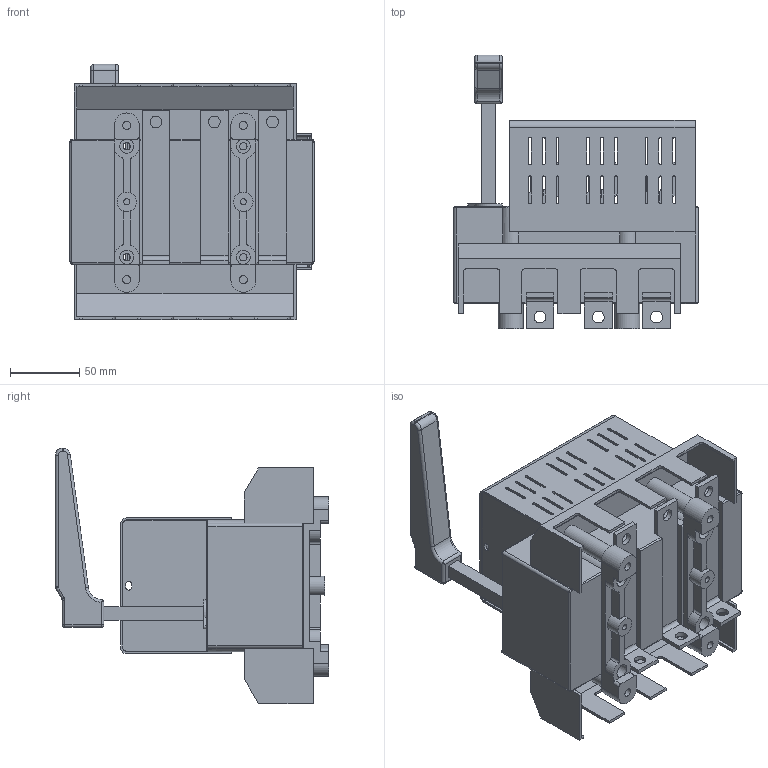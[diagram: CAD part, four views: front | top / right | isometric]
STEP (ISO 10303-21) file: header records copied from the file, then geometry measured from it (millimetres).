
FILE_DESCRIPTION(/* description */ (''),/* implementation_level */ '2;1');
FILE_NAME(/* name */ 'RAB 00 P3 B-R z oslona zaciskow.stp',/* time_stamp */ '2021-08-19T11:17:06+02:00',/* author */ (''),/* organization */ (''),/* preprocessor_version */ 'ST-DEVELOPER v18.1',/* originating_system */ 'SIEMENS PLM Software NX 1965',/* authorisation */ '');
FILE_SCHEMA (('FEATURE_BASED_PROCESS_PLANNING'));
Length unit declared in the file: millimetre
Products named in the file (1): RAB 00 P3 B-R z oslona zaciskow
Bounding box: 176 x 197 x 183.9 mm (x, y, z)
Volume: 1362507.8 mm3; surface area: 291805.6 mm2
Topology: 1 solids, 1 shells, 987 faces, 2833 edges, 1849 vertices
Faces by surface type: plane 604, cylinder 357, torus 12, bspline 8, sphere 6
Full cylindrical faces by diameter (mm): 2.7 x4, 4.3 x2, 5 x6, 5.3 x4, 5.8 x4, 8.5 x6, 10 x12, 13 x4, 14 x2
Entity records: 32377 total; most frequent: CARTESIAN_POINT 6000, ORIENTED_EDGE 5496, DIRECTION 5432, EDGE_CURVE 2748, LINE 1960, VECTOR 1960, VERTEX_POINT 1806, AXIS2_PLACEMENT_3D 1736
